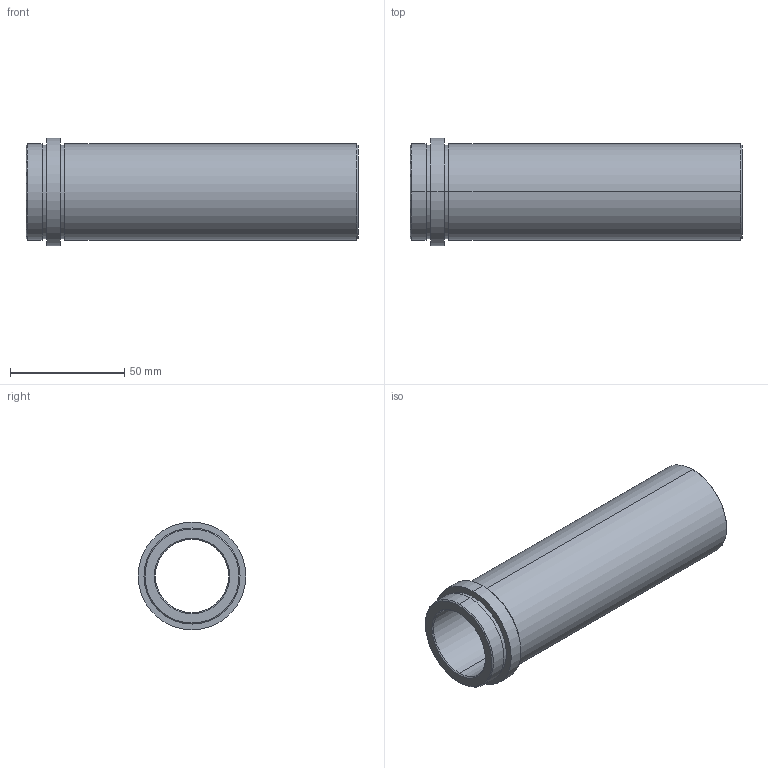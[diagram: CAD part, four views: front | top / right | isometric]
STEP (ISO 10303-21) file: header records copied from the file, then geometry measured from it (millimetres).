
FILE_DESCRIPTION( ( 'STEP AP203' ), '1' );
FILE_NAME( 'C:/Projects/D21 - 32x136.step', '2002-12-31T22:53:13', ( ' ' ), ( ' ' ), 'XStep 1.0', ' ', ' ' );
FILE_SCHEMA( ( 'CONFIG_CONTROL_DESIGN' ) );
Length unit declared in the file: metre
Products named in the file (1): 1
Bounding box: 145 x 47 x 47 mm (x, y, z)
Volume: 86051.4 mm3; surface area: 35776.9 mm2
Topology: 1 solids, 1 shells, 26 faces, 52 edges, 32 vertices
Faces by surface type: revolution 20, bspline 6
Entity records: 773 total; most frequent: CARTESIAN_POINT 169, DIRECTION 106, ORIENTED_EDGE 104, EDGE_CURVE 52, AXIS2_PLACEMENT_3D 33, EDGE_LOOP 32, VERTEX_POINT 32, CIRCLE 32
